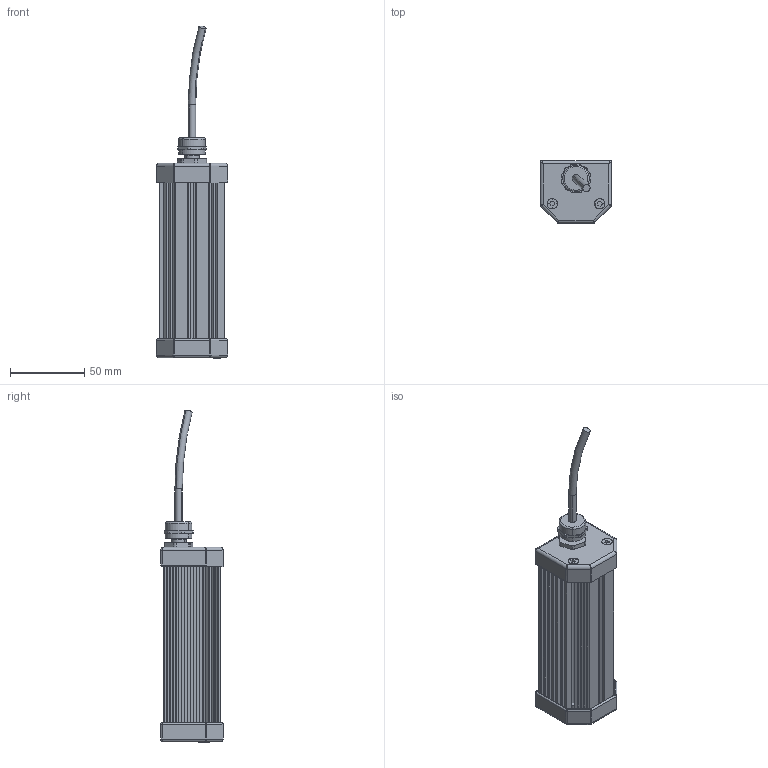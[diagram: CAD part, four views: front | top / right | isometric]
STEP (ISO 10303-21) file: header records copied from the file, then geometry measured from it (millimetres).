
FILE_DESCRIPTION (( 'STEP AP214' ), '1' );
FILE_NAME ('Stableuchte_120mm.STEP', '2021-09-08T06:53:40', ( '' ), ( '' ), 'SwSTEP 2.0', 'SolidWorks 2021', '' );
FILE_SCHEMA (( 'AUTOMOTIVE_DESIGN' ));
Length unit declared in the file: millimetre
Products named in the file (7): Stableuchte_Endkappe_mit_Gewinde; Stableuchte_120r; Scheibe1; Kabelanbindung; Stableuchte_120mm; Stableuchte_Endkappe; Schraube_Lampe
Assembly tree (9 placements, depth 2):
  Stableuchte_120mm
    Stableuchte_120r
    Scheibe1
    Stableuchte_Endkappe_mit_Gewinde
    Stableuchte_Endkappe
    Kabelanbindung
    Schraube_Lampe  x4
Bounding box: 48 x 42 x 223.24 mm (x, y, z)
Volume: 147808.1 mm3; surface area: 71254.9 mm2
Topology: 9 solids, 9 shells, 512 faces, 1394 edges, 862 vertices
Faces by surface type: cylinder 227, plane 219, torus 26, cone 16, bspline 16, sphere 8
Entity records: 15860 total; most frequent: CARTESIAN_POINT 3135, DIRECTION 2588, ORIENTED_EDGE 2456, EDGE_CURVE 1228, AXIS2_PLACEMENT_3D 939, VERTEX_POINT 766, VECTOR 710, LINE 710
